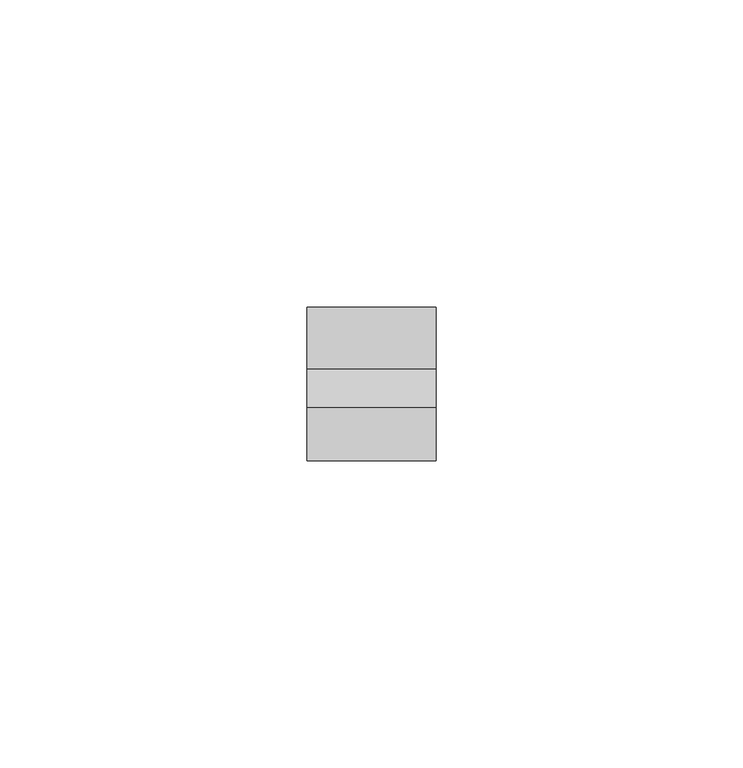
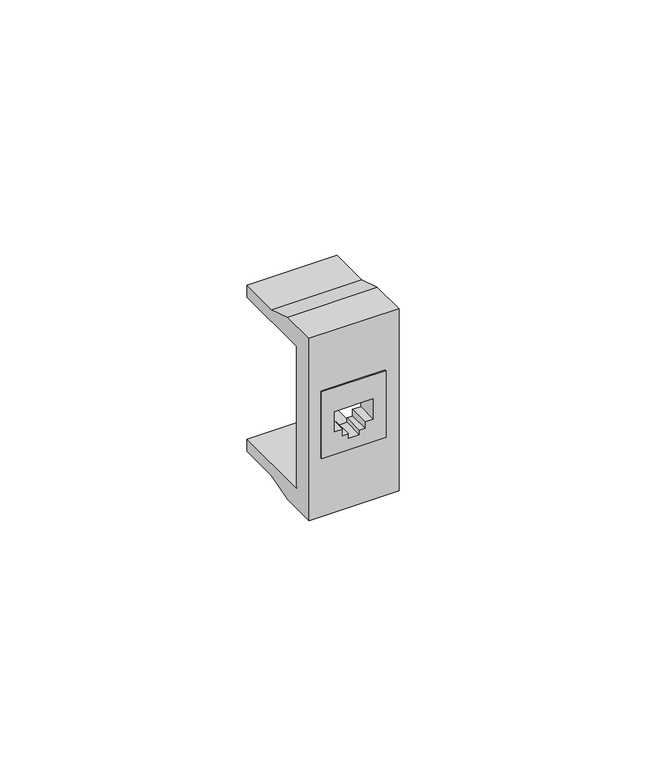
"""IFC4 building model written with IfcOpenShell, lengths in millimetres: proxy geometry, Компьютерные розетки : Категория 5e."""

from ifc_helpers import new_model, si_unit, frame, origin, place, context, project, spatial, polyline, outline, extrude, faceted_brep, source, transform, mapped, element, save


def electrical_fixtures_630f2619(model_context):
    return source(origin(), model_context, "Body", "SolidModel", [
        extrude(outline(polyline([(8.25, 7.5), (8.25, -7.5), (-8.25, -7.5), (-8.25, 7.5), (8.25, 7.5)]), holes=[polyline([(-2.65625, -2.6200027), (-2.65625, -4.5217014), (2.3669591, -4.5217014), (2.3669591, 4.5217014), (-2.65625, 4.5217014), (-2.65625, 2.6200027), (-4.2832694, 2.6200027), (-4.2832694, 1.2532329), (-5.3872156, 1.2532329), (-5.3872156, -1.2532329), (-4.2832694, -1.2532329), (-4.2832694, -2.6200027), (-2.65625, -2.6200027)])]), frame((0.0, -25.0, 0.0), z_axis=(0.0, 1.0, 0.0), x_axis=(0.0, 0.0, 1.0)), (0.0, 0.0, 1.0), 5.0),
        faceted_brep([(-10.5, -20.0, -17.5), (10.5, -20.0, -17.5), (10.5, 0.0, -17.5), (-10.5, 0.0, -17.5), (10.5, -20.0, 17.5), (-10.5, -20.0, 17.5), (-10.5, 0.0, 17.5), (10.5, 0.0, 17.5), (7.5, -20.0, -8.25), (7.5, -20.0, 8.25), (-7.5, -20.0, 8.25), (-7.5, -20.0, -8.25), (-10.5, -10.0, 20.5), (10.5, -10.0, 20.5), (10.5, 0.0, 20.5), (-10.5, 0.0, 20.5), (-10.5, -16.2913439, 22.5), (10.5, -16.2913439, 22.5), (10.5, -10.0, -20.5), (-10.5, -10.0, -20.5), (-10.5, 0.0, -20.5), (10.5, 0.0, -20.5), (10.5, -16.2913439, -22.5), (-10.5, -16.2913439, -22.5), (10.5, -25.0, 22.5), (-10.5, -25.0, 22.5), (-10.5, -25.0, -22.5), (10.5, -25.0, -22.5), (7.5, -25.0, 8.25), (7.5, -25.0, -8.25), (-7.5, -25.0, -8.25), (-7.5, -25.0, 8.25)], [[[0, 1, 2, 3]], [[4, 5, 6, 7]], [[1, 0, 5, 4], [8, 9, 10, 11]], [[12, 13, 14, 15]], [[13, 12, 16, 17]], [[18, 19, 20, 21]], [[19, 18, 22, 23]], [[24, 25, 26, 27], [28, 29, 30, 31]], [[14, 7, 6, 15]], [[2, 21, 20, 3]], [[25, 24, 17, 16]], [[26, 25, 16, 12, 15, 6, 5, 0, 3, 20, 19, 23]], [[27, 26, 23, 22]], [[24, 27, 22, 18, 21, 2, 1, 4, 7, 14, 13, 17]], [[29, 28, 9, 8]], [[30, 29, 8, 11]], [[31, 30, 11, 10]], [[28, 31, 10, 9]]]),
    ])


if __name__ == "__main__":
    model = new_model("IFC4")
    model_context = context("Model", 3, world=origin())
    ifc_project = project(units=[si_unit("LENGTHUNIT", "METRE", prefix="MILLI")], contexts=[model_context])
    site = spatial("IfcSite", under=ifc_project)
    building = spatial("IfcBuilding", under=site)
    placement = place(None, origin())
    electrical_fixtures_shape = electrical_fixtures_630f2619(model_context)
    element("IfcBuildingElementProxy", 1, Name="Компьютерные розетки : Категория 5e", ObjectType="Компьютерные розетки : Категория 5e", at=placement, inside=building, context=model_context, shape_type="MappedRepresentation", body=[
        mapped(electrical_fixtures_shape, transform((0.0, 0.0, 0.0), x_axis=(1.0, 0.0, 0.0), y_axis=(0.0, 1.0, 0.0), z_axis=(0.0, 0.0, 1.0))),
    ])
    save(model, "model.ifc")
